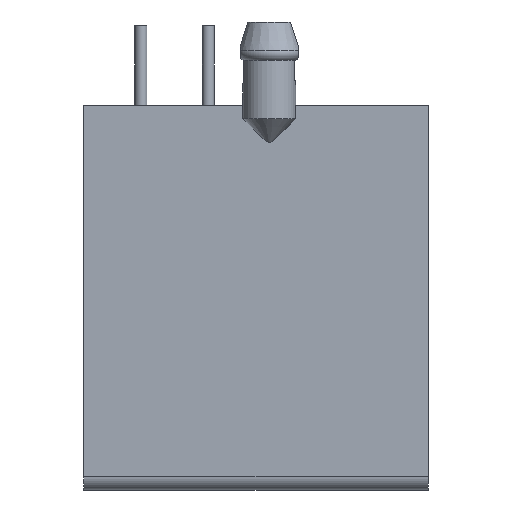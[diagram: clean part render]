
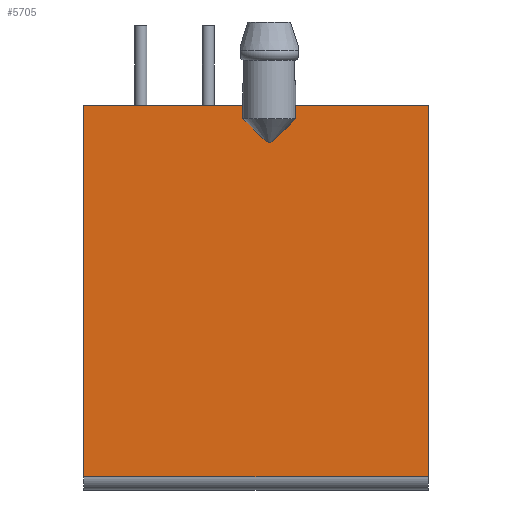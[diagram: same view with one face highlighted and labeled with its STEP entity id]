
A CAD part, left-side view. The second image highlights one B-rep face of the part: STEP entity #5705.
In plain terms, the highlighted planar face has unit normal (-1, 0, 0).
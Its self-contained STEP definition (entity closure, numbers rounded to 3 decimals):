
#786=DIRECTION('',(0.,-1.,0.));
#787=VECTOR('',#786,13.);
#788=CARTESIAN_POINT('',(-6.1,6.5,-6.8));
#789=LINE('',#788,#787);
#794=DIRECTION('',(0.,0.,-1.));
#795=VECTOR('',#794,14.);
#796=CARTESIAN_POINT('',(-6.1,-6.5,7.2));
#797=LINE('',#796,#795);
#798=DIRECTION('',(0.,0.,1.));
#799=VECTOR('',#798,14.);
#800=CARTESIAN_POINT('',(-6.1,6.5,-6.8));
#801=LINE('',#800,#799);
#802=DIRECTION('',(0.,0.,-1.));
#803=VECTOR('',#802,0.5);
#804=CARTESIAN_POINT('',(-6.1,-1.495,7.2));
#805=LINE('',#804,#803);
#806=DIRECTION('',(0.,0.,1.));
#807=VECTOR('',#806,0.5);
#808=CARTESIAN_POINT('',(-6.1,0.495,6.7));
#809=LINE('',#808,#807);
#859=DIRECTION('',(0.,-1.,0.));
#860=VECTOR('',#859,5.005);
#861=CARTESIAN_POINT('',(-6.1,-1.495,7.2));
#862=LINE('',#861,#860);
#878=DIRECTION('',(0.,-1.,0.));
#879=VECTOR('',#878,6.005);
#880=CARTESIAN_POINT('',(-6.1,6.5,7.2));
#881=LINE('',#880,#879);
#3282=CARTESIAN_POINT('',(-6.1,-1.495,6.7));
#3283=CARTESIAN_POINT('',(-6.1,-1.458,6.663));
#3284=CARTESIAN_POINT('',(-6.1,-1.387,6.593));
#3285=CARTESIAN_POINT('',(-6.1,-1.289,6.495));
#3286=CARTESIAN_POINT('',(-6.1,-1.198,6.405));
#3287=CARTESIAN_POINT('',(-6.1,-1.115,6.323));
#3288=CARTESIAN_POINT('',(-6.1,-1.038,6.247));
#3289=CARTESIAN_POINT('',(-6.1,-0.967,6.178));
#3290=CARTESIAN_POINT('',(-6.1,-0.902,6.114));
#3291=CARTESIAN_POINT('',(-6.1,-0.842,6.056));
#3292=CARTESIAN_POINT('',(-6.1,-0.787,6.004));
#3293=CARTESIAN_POINT('',(-6.1,-0.737,5.957));
#3294=CARTESIAN_POINT('',(-6.1,-0.691,5.915));
#3295=CARTESIAN_POINT('',(-6.1,-0.648,5.878));
#3296=CARTESIAN_POINT('',(-6.1,-0.608,5.846));
#3297=CARTESIAN_POINT('',(-6.1,-0.57,5.821));
#3298=CARTESIAN_POINT('',(-6.1,-0.534,5.804));
#3299=CARTESIAN_POINT('',(-6.1,-0.5,5.798));
#3300=CARTESIAN_POINT('',(-6.1,-0.466,5.804));
#3301=CARTESIAN_POINT('',(-6.1,-0.43,5.821));
#3302=CARTESIAN_POINT('',(-6.1,-0.392,5.846));
#3303=CARTESIAN_POINT('',(-6.1,-0.353,5.878));
#3304=CARTESIAN_POINT('',(-6.1,-0.31,5.915));
#3305=CARTESIAN_POINT('',(-6.1,-0.263,5.957));
#3306=CARTESIAN_POINT('',(-6.1,-0.213,6.004));
#3307=CARTESIAN_POINT('',(-6.1,-0.158,6.056));
#3308=CARTESIAN_POINT('',(-6.1,-0.098,6.114));
#3309=CARTESIAN_POINT('',(-6.1,-0.033,6.177));
#3310=CARTESIAN_POINT('',(-6.1,0.038,6.247));
#3311=CARTESIAN_POINT('',(-6.1,0.115,6.323));
#3312=CARTESIAN_POINT('',(-6.1,0.198,6.405));
#3313=CARTESIAN_POINT('',(-6.1,0.289,6.495));
#3314=CARTESIAN_POINT('',(-6.1,0.387,6.593));
#3315=CARTESIAN_POINT('',(-6.1,0.458,6.663));
#3316=CARTESIAN_POINT('',(-6.1,0.495,6.7));
#3937=CARTESIAN_POINT('',(-6.1,6.5,7.2));
#3938=VERTEX_POINT('',#3937);
#3939=CARTESIAN_POINT('',(-6.1,6.5,-6.8));
#3940=VERTEX_POINT('',#3939);
#4013=CARTESIAN_POINT('',(-6.1,-6.5,7.2));
#4014=VERTEX_POINT('',#4013);
#4015=CARTESIAN_POINT('',(-6.1,-6.5,-6.8));
#4016=VERTEX_POINT('',#4015);
#4019=CARTESIAN_POINT('',(-6.1,-1.495,7.2));
#4020=CARTESIAN_POINT('',(-6.1,-1.495,6.7));
#4021=VERTEX_POINT('',#4019);
#4022=VERTEX_POINT('',#4020);
#4023=VERTEX_POINT('',#3316);
#4024=CARTESIAN_POINT('',(-6.1,0.495,7.2));
#4025=VERTEX_POINT('',#4024);
#5685=CARTESIAN_POINT('',(-6.1,0.,0.2));
#5686=DIRECTION('',(1.,0.,0.));
#5687=DIRECTION('',(0.,-1.,0.));
#5688=AXIS2_PLACEMENT_3D('',#5685,#5686,#5687);
#5689=PLANE('',#5688);
#5691=ORIENTED_EDGE('',*,*,#5690,.F.);
#5693=ORIENTED_EDGE('',*,*,#5692,.T.);
#5694=ORIENTED_EDGE('',*,*,#5626,.T.);
#5695=ORIENTED_EDGE('',*,*,#5678,.F.);
#5696=ORIENTED_EDGE('',*,*,#5529,.T.);
#5698=ORIENTED_EDGE('',*,*,#5697,.T.);
#5700=ORIENTED_EDGE('',*,*,#5699,.F.);
#5702=ORIENTED_EDGE('',*,*,#5701,.F.);
#5703=EDGE_LOOP('',(#5691,#5693,#5694,#5695,#5696,#5698,#5700,#5702));
#5704=FACE_OUTER_BOUND('',#5703,.F.);
#5705=ADVANCED_FACE('',(#5704),#5689,.F.);
#3317=B_SPLINE_CURVE_WITH_KNOTS('',3,(#3282,#3283,#3284,#3285,#3286,#3287,#3288,
#3289,#3290,#3291,#3292,#3293,#3294,#3295,#3296,#3297,#3298,#3299,#3300,#3301,
#3302,#3303,#3304,#3305,#3306,#3307,#3308,#3309,#3310,#3311,#3312,#3313,#3314,
#3315,#3316),.UNSPECIFIED.,.F.,.F.,(4,1,1,1,1,1,1,1,1,1,1,1,1,1,1,1,1,1,1,1,1,1,
1,1,1,1,1,1,1,1,1,1,4),(0.,0.031,0.063,0.094,0.125,0.156,
0.188,0.219,0.25,0.281,0.313,0.344,0.375,0.406,
0.438,0.469,0.5,0.531,0.563,0.594,0.625,0.656,
0.688,0.719,0.75,0.781,0.813,0.844,0.875,0.906,
0.938,0.969,1.),.UNSPECIFIED.);
#5529=EDGE_CURVE('',#3940,#3938,#801,.T.);
#5626=EDGE_CURVE('',#4014,#4016,#797,.T.);
#5678=EDGE_CURVE('',#3940,#4016,#789,.T.);
#5690=EDGE_CURVE('',#4021,#4022,#805,.T.);
#5692=EDGE_CURVE('',#4021,#4014,#862,.T.);
#5697=EDGE_CURVE('',#3938,#4025,#881,.T.);
#5699=EDGE_CURVE('',#4023,#4025,#809,.T.);
#5701=EDGE_CURVE('',#4022,#4023,#3317,.T.);
